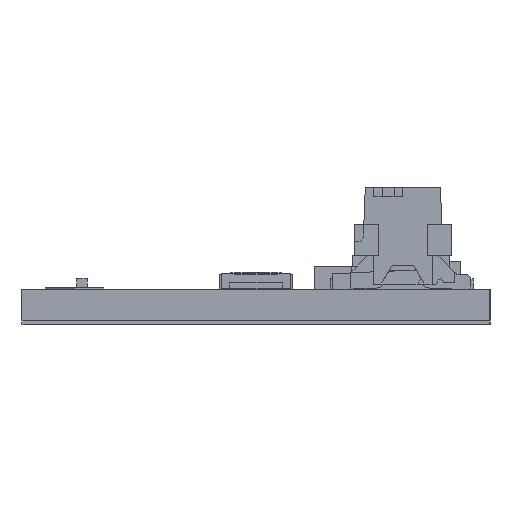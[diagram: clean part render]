
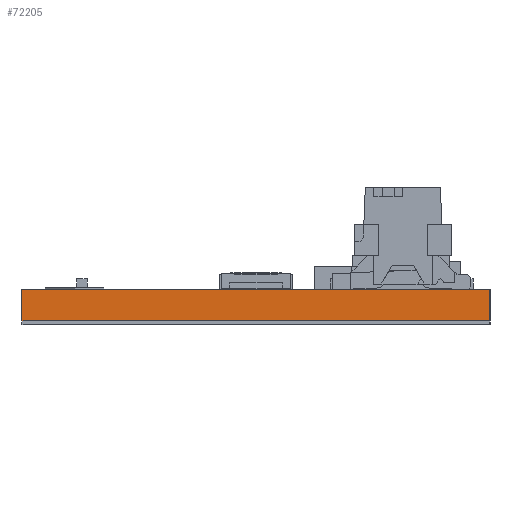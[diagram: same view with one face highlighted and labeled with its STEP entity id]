
A CAD part, left-side view. The second image highlights one B-rep face of the part: STEP entity #72205.
In plain terms, the highlighted planar face has unit normal (-1, 0, 0).
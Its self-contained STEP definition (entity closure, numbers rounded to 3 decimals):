
#51 = DIRECTION ( 'NONE',  ( 0., -1., 0. ) ) ;
#206 = FACE_OUTER_BOUND ( 'NONE', #72701, .T. ) ;
#317 = CARTESIAN_POINT ( 'NONE',  ( -136.667, 12., 1.606 ) ) ;
#6198 = EDGE_CURVE ( 'NONE', #62762, #10527, #10078, .T. ) ;
#6204 = LINE ( 'NONE', #55323, #20643 ) ;
#6209 = ORIENTED_EDGE ( 'NONE', *, *, #15452, .F. ) ;
#7641 = EDGE_CURVE ( 'NONE', #63554, #26884, #17537, .T. ) ;
#10078 = LINE ( 'NONE', #31562, #73733 ) ;
#10527 = VERTEX_POINT ( 'NONE', #22867 ) ;
#15452 = EDGE_CURVE ( 'NONE', #26884, #10527, #6204, .T. ) ;
#17537 = LINE ( 'NONE', #317, #77356 ) ;
#18779 = AXIS2_PLACEMENT_3D ( 'NONE', #37640, #56270, #19310 ) ;
#19310 = DIRECTION ( 'NONE',  ( 0., 0., -1. ) ) ;
#19496 = LINE ( 'NONE', #64837, #54236 ) ;
#20643 = VECTOR ( 'NONE', #30472, 1000. ) ;
#21667 = DIRECTION ( 'NONE',  ( 0., 0., -1. ) ) ;
#22867 = CARTESIAN_POINT ( 'NONE',  ( -136.667, -12., 0. ) ) ;
#26763 = ORIENTED_EDGE ( 'NONE', *, *, #7641, .F. ) ;
#26884 = VERTEX_POINT ( 'NONE', #32620 ) ;
#30472 = DIRECTION ( 'NONE',  ( 0., 0., -1. ) ) ;
#31562 = CARTESIAN_POINT ( 'NONE',  ( -136.667, 12., 0. ) ) ;
#32620 = CARTESIAN_POINT ( 'NONE',  ( -136.667, -12., 1.606 ) ) ;
#37640 = CARTESIAN_POINT ( 'NONE',  ( -136.667, 12., 1.606 ) ) ;
#40756 = ORIENTED_EDGE ( 'NONE', *, *, #55696, .T. ) ;
#40871 = CARTESIAN_POINT ( 'NONE',  ( -136.667, 12., 1.606 ) ) ;
#52405 = CARTESIAN_POINT ( 'NONE',  ( -136.667, 12., 0. ) ) ;
#54236 = VECTOR ( 'NONE', #21667, 1000. ) ;
#55323 = CARTESIAN_POINT ( 'NONE',  ( -136.667, -12., 1.606 ) ) ;
#55696 = EDGE_CURVE ( 'NONE', #63554, #62762, #19496, .T. ) ;
#56270 = DIRECTION ( 'NONE',  ( 1., 0., 0. ) ) ;
#61424 = ORIENTED_EDGE ( 'NONE', *, *, #6198, .T. ) ;
#62762 = VERTEX_POINT ( 'NONE', #52405 ) ;
#63554 = VERTEX_POINT ( 'NONE', #40871 ) ;
#64837 = CARTESIAN_POINT ( 'NONE',  ( -136.667, 12., 1.606 ) ) ;
#68395 = PLANE ( 'NONE',  #18779 ) ;
#72205 = ADVANCED_FACE ( 'NONE', ( #206 ), #68395, .F. ) ;
#72701 = EDGE_LOOP ( 'NONE', ( #61424, #6209, #26763, #40756 ) ) ;
#73733 = VECTOR ( 'NONE', #79369, 1000. ) ;
#77356 = VECTOR ( 'NONE', #51, 1000. ) ;
#79369 = DIRECTION ( 'NONE',  ( 0., -1., 0. ) ) ;
